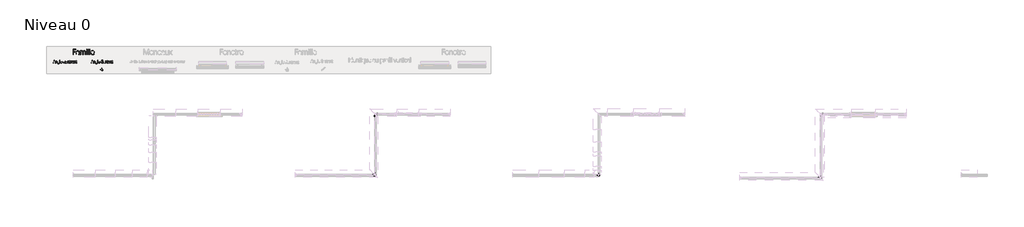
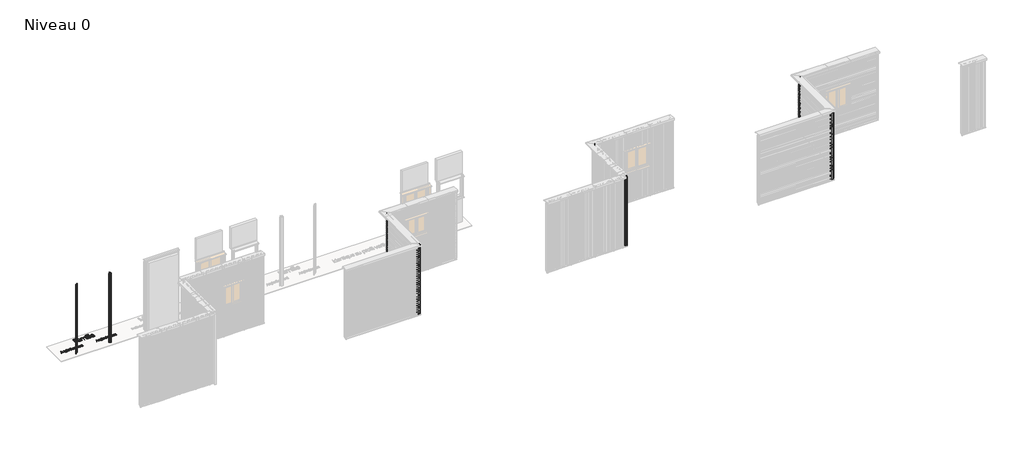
# One storey, part 5 of 11: 11 proxies.
"""IFC4 building model written with IfcOpenShell, lengths in millimetres."""

import ifcopenshell
import ifcopenshell.guid

model = None  # the IFC model being written
_history = None  # IfcOwnerHistory: only IFC2X3 demands one
_inside = {}  # id of a spatial element -> (the spatial element, [elements in it])
_under = {}  # id of a project, library or spatial element -> (it, [spatial elements below it])
_declared = {}  # id of a project -> (the project, [libraries it declares])
_typed = {}  # id of a type object -> (the type object, [elements of that type])
_made_of = {}  # id of a material, layer set ... -> (it, [elements and type objects made of it])


def new_model(schema):
    """Start an empty IFC model of exactly this schema.

    Asked for "IFC4X3", IfcOpenShell would pick the latest addendum, in which some entities
    have other attributes; the version numbers below select the first issue.
    IFC2X3 requires an IfcOwnerHistory on every rooted entity: one is made here for all.
    """
    global model, _history
    if schema == "IFC4X3":
        model = ifcopenshell.file(schema_version=(4, 3, 0, 0))
    else:
        model = ifcopenshell.file(schema=schema)
    _inside.clear()
    _under.clear()
    _declared.clear()
    _typed.clear()
    _made_of.clear()
    _history = None
    if model.schema == "IFC2X3":
        org = make("IfcOrganization", Name="unknown")
        user = make(
            "IfcPersonAndOrganization",
            ThePerson=make("IfcPerson", FamilyName="unknown"),
            TheOrganization=org,
        )
        app = make(
            "IfcApplication",
            ApplicationDeveloper=org,
            Version="unknown",
            ApplicationFullName="unknown",
            ApplicationIdentifier="unknown",
        )
        _history = make(
            "IfcOwnerHistory",
            OwningUser=user,
            OwningApplication=app,
            ChangeAction="ADDED",
            CreationDate=0,
        )
    return model


def make(cls, **values):
    """One entity of the class cls with the attributes given. An attribute that is None is left unset."""
    return model.create_entity(
        cls, **{name: value for name, value in values.items() if value is not None}
    )


def rooted(cls, **values):
    """An entity with a GlobalId (a new one), such as an element, a storey or a relation."""
    return make(cls, GlobalId=ifcopenshell.guid.new(), OwnerHistory=_history, **values)


def si_unit(unit_type, name, prefix=None):
    """IfcSIUnit, for example si_unit("LENGTHUNIT", "METRE", prefix="MILLI")."""
    return make("IfcSIUnit", UnitType=unit_type, Prefix=prefix, Name=name)


def assignment(units):
    """IfcUnitAssignment: the units of a project."""
    return None if units is None else make("IfcUnitAssignment", Units=units)


def point(xyz):
    """IfcCartesianPoint."""
    return None if xyz is None else make("IfcCartesianPoint", Coordinates=xyz)


def direction(xyz):
    """IfcDirection."""
    return None if xyz is None else make("IfcDirection", DirectionRatios=xyz)


def frame(location, z_axis=None, x_axis=None):
    """IfcAxis2Placement3D, a coordinate frame: its origin and axes. An axis left out is left unset."""
    return make(
        "IfcAxis2Placement3D",
        Location=point(location),
        Axis=direction(z_axis),
        RefDirection=direction(x_axis),
    )


def frame_2d(location, x_axis=None):
    """IfcAxis2Placement2D, a coordinate frame in the plane: its origin and x axis."""
    return make(
        "IfcAxis2Placement2D", Location=point(location), RefDirection=direction(x_axis)
    )


def origin():
    """The frame at (0, 0, 0) with its axes left unset."""
    return frame((0.0, 0.0, 0.0))


def origin_with_axes():
    """The frame at (0, 0, 0) with the z axis (0, 0, 1) and the x axis (1, 0, 0) written out."""
    return frame((0.0, 0.0, 0.0), z_axis=(0.0, 0.0, 1.0), x_axis=(1.0, 0.0, 0.0))


def place(relative_to, where):
    """IfcLocalPlacement: puts the frame where relative to a parent placement (None: the world)."""
    return make(
        "IfcLocalPlacement", PlacementRelTo=relative_to, RelativePlacement=where
    )


def context(
    kind, dimensions, precision=None, world=None, true_north=None, identifier=None
):
    """IfcGeometricRepresentationContext, for example the 3D "Model" context."""
    return make(
        "IfcGeometricRepresentationContext",
        ContextIdentifier=identifier,
        ContextType=kind,
        CoordinateSpaceDimension=dimensions,
        Precision=precision,
        WorldCoordinateSystem=world,
        TrueNorth=true_north,
    )


def project(units=None, contexts=None):
    """IfcProject with its units and contexts."""
    return rooted(
        "IfcProject",
        Name="project",
        RepresentationContexts=contexts,
        UnitsInContext=assignment(units),
    )


def spatial(cls, under=None, at=None, **own):
    """A site, building, storey or space (cls), placed at a placement, below another one or the project."""
    s = rooted(cls, ObjectPlacement=at, **own)
    if under is not None:
        _under.setdefault(under.id(), (under, []))[1].append(s)
    return s


def polyline(points):
    """IfcPolyline through the points."""
    return make("IfcPolyline", Points=[point(p) for p in points])


def circle_curve(where, radius):
    """IfcCircle in the frame where."""
    return make("IfcCircle", Position=where, Radius=radius)


def trimmed(basis, trim1, trim2, sense, master):
    """IfcTrimmedCurve: the piece of a basis curve between two trims."""
    return make(
        "IfcTrimmedCurve",
        BasisCurve=basis,
        Trim1=trim1,
        Trim2=trim2,
        SenseAgreement=sense,
        MasterRepresentation=master,
    )


def segment(curve, same_sense, transition):
    """IfcCompositeCurveSegment."""
    return make(
        "IfcCompositeCurveSegment",
        Transition=transition,
        SameSense=same_sense,
        ParentCurve=curve,
    )


def composite_curve(segments, self_intersect=None):
    """IfcCompositeCurve: segments joined end to end."""
    return make("IfcCompositeCurve", Segments=segments, SelfIntersect=self_intersect)


def outline(outer, holes=None, kind="AREA"):
    """IfcArbitraryClosedProfileDef: a profile drawn as a closed curve; with holes, ...WithVoids."""
    if holes is None:
        return make("IfcArbitraryClosedProfileDef", ProfileType=kind, OuterCurve=outer)
    return make(
        "IfcArbitraryProfileDefWithVoids",
        ProfileType=kind,
        OuterCurve=outer,
        InnerCurves=holes,
    )


def extrude(swept, where, along, depth):
    """IfcExtrudedAreaSolid: the profile swept, set in the frame where, extruded along a direction by depth."""
    return make(
        "IfcExtrudedAreaSolid",
        SweptArea=swept,
        Position=where,
        ExtrudedDirection=direction(along),
        Depth=depth,
    )


def shape(context_of_items, identifier, shape_type, items):
    """IfcShapeRepresentation: the items that make up one representation, for example the "Body"."""
    return make(
        "IfcShapeRepresentation",
        ContextOfItems=context_of_items,
        RepresentationIdentifier=identifier,
        RepresentationType=shape_type,
        Items=items,
    )


def source(mapping_origin, context_of_items, identifier, shape_type, items):
    """IfcRepresentationMap: a shape defined once, which mapped items show again and again."""
    return make(
        "IfcRepresentationMap",
        MappingOrigin=mapping_origin,
        MappedRepresentation=shape(context_of_items, identifier, shape_type, items),
    )


def transform(
    local_origin,
    x_axis=None,
    y_axis=None,
    z_axis=None,
    scale=None,
    scale2=None,
    scale3=None,
    uniform=True,
):
    """IfcCartesianTransformationOperator3D, or its non-uniform kind. x_axis, y_axis, z_axis: its Axis1, 2, 3."""
    if uniform:
        return make(
            "IfcCartesianTransformationOperator3D",
            Axis1=direction(x_axis),
            Axis2=direction(y_axis),
            LocalOrigin=point(local_origin),
            Scale=scale,
            Axis3=direction(z_axis),
        )
    return make(
        "IfcCartesianTransformationOperator3DnonUniform",
        Axis1=direction(x_axis),
        Axis2=direction(y_axis),
        LocalOrigin=point(local_origin),
        Scale=scale,
        Axis3=direction(z_axis),
        Scale2=scale2,
        Scale3=scale3,
    )


def mapped(mapping_source, mapping_target):
    """IfcMappedItem: shows the shape of a source again, moved by a transform."""
    return make(
        "IfcMappedItem", MappingSource=mapping_source, MappingTarget=mapping_target
    )


def made_of(thing, what):
    """Note that an element or type object is made of a material, layer set ...; save() writes the relation."""
    if what is not None:
        _made_of.setdefault(what.id(), (what, []))[1].append(thing)
    return thing


def element(
    cls,
    number,
    at=None,
    inside=None,
    cuts=None,
    type_object=None,
    material=None,
    context=None,
    identifier="Body",
    shape_type=None,
    held_by="IfcProductDefinitionShape",
    body=None,
    shapes=None,
    **own,
):
    """One element of the class cls, such as IfcWall. Its Tag is "e" and its number.

    at: its placement. inside: the storey or other place that contains it. cuts: it is an
    opening in that element (IfcRelVoidsElement). A single representation is given by context,
    identifier, shape_type and body (its items); several are given by shapes. held_by: the class
    of the entity that holds the representations. save() writes the other relations.
    """
    e = rooted(cls, Tag="e%d" % number, ObjectPlacement=at, **own)
    if body is not None:
        shapes = [shape(context, identifier, shape_type, body)]
    if shapes is not None:
        e.Representation = make(held_by, Representations=shapes)
    if inside is not None:
        _inside.setdefault(inside.id(), (inside, []))[1].append(e)
    if cuts is not None:
        rooted(
            "IfcRelVoidsElement", RelatingBuildingElement=cuts, RelatedOpeningElement=e
        )
    if type_object is not None:
        _typed.setdefault(type_object.id(), (type_object, []))[1].append(e)
    return made_of(e, material)


def aggregate(whole, parts):
    """IfcRelAggregates: a whole, such as a stair, and the parts it consists of."""
    return rooted("IfcRelAggregates", RelatingObject=whole, RelatedObjects=parts)


def save(model, path):
    """Write the relations noted so far, then the file.

    IfcRelAggregates (storeys below a building ...), IfcRelContainedInSpatialStructure (elements
    in a storey), IfcRelDefinesByType, IfcRelAssociatesMaterial and IfcRelDeclares: one each for
    every whole, place, type object, material and project.
    """
    for whole, parts in _under.values():
        aggregate(whole, parts)
    for where, things in _inside.values():
        rooted(
            "IfcRelContainedInSpatialStructure",
            RelatedElements=things,
            RelatingStructure=where,
        )
    for kind, things in _typed.values():
        rooted("IfcRelDefinesByType", RelatedObjects=things, RelatingType=kind)
    for what, things in _made_of.values():
        rooted("IfcRelAssociatesMaterial", RelatedObjects=things, RelatingMaterial=what)
    for by, libraries in _declared.values():
        rooted("IfcRelDeclares", RelatingContext=by, RelatedDefinitions=libraries)
    model.write(path)


def generic_models_8bef1f62(model_context):
    return source(origin(), model_context, "Body", "SweptSolid", [
        extrude(outline(composite_curve([segment(trimmed(circle_curve(frame_2d((-8.1571833, 78.8678614)), 24.25), [point((-31.2518285, 86.2637968))], [point((-25.3045227, 61.720522))], True, "CARTESIAN"), True, "CONTINUOUS"), segment(polyline([(-25.3045227, 61.720522), (-7.5420004, 43.9579996)]), True, "CONTINUOUS"), segment(trimmed(circle_curve(frame_2d((-25.75, 25.75)), 25.75), [point((-7.5420004, 43.9579996))], [point((-7.5420004, 7.5420004))], False, "CARTESIAN"), True, "CONTINUOUS"), segment(trimmed(circle_curve(frame_2d((-25.75, 25.75)), 25.75), [point((-7.5420004, 7.5420004))], [point((-43.9579996, 7.5420004))], False, "CARTESIAN"), True, "CONTINUOUS"), segment(polyline([(-43.9579996, 7.5420004), (-61.720522, 25.3045227)]), True, "CONTINUOUS"), segment(trimmed(circle_curve(frame_2d((-78.8678614, 8.1571833)), 24.25), [point((-61.720522, 25.3045227))], [point((-86.2637968, 31.2518285))], True, "CARTESIAN"), True, "CONTINUOUS"), segment(polyline([(-86.2637968, 31.2518285), (-96.4932112, 30.7157276), (-96.4932112, 31.7171), (-86.4441266, 32.2437502)]), True, "CONTINUOUS"), segment(trimmed(circle_curve(frame_2d((-78.8678614, 8.1571833)), 25.25), [point((-86.4441266, 32.2437502))], [point((-61.0134152, 26.0116295))], False, "CARTESIAN"), True, "CONTINUOUS"), segment(polyline([(-61.0134152, 26.0116295), (-43.2508928, 8.2491072)]), True, "CONTINUOUS"), segment(trimmed(circle_curve(frame_2d((-25.75, 25.75)), 24.75), [point((-43.2508928, 8.2491072))], [point((-8.2491072, 8.2491072))], True, "CARTESIAN"), True, "CONTINUOUS"), segment(trimmed(circle_curve(frame_2d((-25.75, 25.75)), 24.75), [point((-8.2491072, 8.2491072))], [point((-8.2491072, 43.2508928))], True, "CARTESIAN"), True, "CONTINUOUS"), segment(polyline([(-8.2491072, 43.2508928), (-26.0116295, 61.0134152)]), True, "CONTINUOUS"), segment(trimmed(circle_curve(frame_2d((-8.1571833, 78.8678614)), 25.25), [point((-26.0116295, 61.0134152))], [point((-32.2437502, 86.4441266))], False, "CARTESIAN"), True, "CONTINUOUS"), segment(polyline([(-32.2437502, 86.4441266), (-31.7198428, 96.4408753), (-30.7184705, 96.4408753), (-31.2518285, 86.2637968)]), True, "CONTINUOUS")], self_intersect=False)), origin_with_axes(), (0.0, 0.0, 1.0), 2850.0),
    ])


def generic_models_79ab70e4(model_context):
    return source(origin(), model_context, "Body", "SweptSolid", [
        extrude(outline(composite_curve([segment(trimmed(circle_curve(frame_2d((-25.0, 48.4193766)), 25.0), [point((-1.6392422, 57.3230271))], [point((-7.3223305, 30.7417071))], False, "CARTESIAN"), True, "CONTINUOUS"), segment(polyline([(-7.3223305, 30.7417071), (-30.7417071, 7.3223305)]), True, "CONTINUOUS"), segment(trimmed(circle_curve(frame_2d((-48.4193766, 25.0)), 25.0), [point((-30.7417071, 7.3223305))], [point((-57.3230271, 1.6392422))], False, "CARTESIAN"), True, "CONTINUOUS"), segment(polyline([(-57.3230271, 1.6392422), (-67.2233179, 3.0306373), (-67.0841448, 4.0209054), (-57.0710662, 2.6136589)]), True, "CONTINUOUS"), segment(trimmed(circle_curve(frame_2d((-48.4193766, 25.0)), 24.0), [point((-57.0710662, 2.6136589))], [point((-31.4488138, 8.0294373))], True, "CARTESIAN"), True, "CONTINUOUS"), segment(polyline([(-31.4488138, 8.0294373), (-8.0294373, 31.4488138)]), True, "CONTINUOUS"), segment(trimmed(circle_curve(frame_2d((-25.0, 48.4193766)), 24.0), [point((-8.0294373, 31.4488138))], [point((-2.6136589, 57.0710662))], True, "CARTESIAN"), True, "CONTINUOUS"), segment(polyline([(-2.6136589, 57.0710662), (-4.0209054, 67.0841448), (-3.0306373, 67.2233179), (-1.6392422, 57.3230271)]), True, "CONTINUOUS")], self_intersect=False)), origin_with_axes(), (0.0, 0.0, 1.0), 2850.0),
    ])


def generic_models_60d2bb67(model_context):
    return source(origin(), model_context, "Body", "SweptSolid", [
        extrude(outline(composite_curve([segment(trimmed(circle_curve(frame_2d((-2.75, 66.9017915)), 2.75), [point((-2.75, 69.6517915))], [point((0.0, 66.9017915))], False, "CARTESIAN"), True, "CONTINUOUS"), segment(polyline([(0.0, 66.9017915), (0.0, 2.75)]), True, "CONTINUOUS"), segment(trimmed(circle_curve(frame_2d((-2.75, 2.75)), 2.75), [point((0.0, 2.75))], [point((-2.75, 0.0))], False, "CARTESIAN"), True, "CONTINUOUS"), segment(polyline([(-2.75, 0.0), (-66.4352339, 0.0)]), True, "CONTINUOUS"), segment(trimmed(circle_curve(frame_2d((-66.4352339, 2.75)), 2.75), [point((-66.4352339, 0.0))], [point((-69.1852339, 2.75))], False, "CARTESIAN"), True, "CONTINUOUS"), segment(polyline([(-69.1852339, 2.75), (-69.1852339, 40.4017915)]), True, "CONTINUOUS"), segment(trimmed(circle_curve(frame_2d((-71.1852339, 40.4017915)), 2.0), [point((-69.1852339, 40.4017915))], [point((-71.1852339, 42.4017915))], True, "CARTESIAN"), True, "CONTINUOUS"), segment(polyline([(-71.1852339, 42.4017915), (-110.6852339, 42.4017915), (-110.6852339, 43.4017915), (-71.1852339, 43.4017915)]), True, "CONTINUOUS"), segment(trimmed(circle_curve(frame_2d((-71.1852339, 40.4017915)), 3.0), [point((-71.1852339, 43.4017915))], [point((-68.1852339, 40.4017915))], False, "CARTESIAN"), True, "CONTINUOUS"), segment(polyline([(-68.1852339, 40.4017915), (-68.1852339, 2.75)]), True, "CONTINUOUS"), segment(trimmed(circle_curve(frame_2d((-66.4352339, 2.75)), 1.75), [point((-68.1852339, 2.75))], [point((-66.4352339, 1.0))], True, "CARTESIAN"), True, "CONTINUOUS"), segment(polyline([(-66.4352339, 1.0), (-2.75, 1.0)]), True, "CONTINUOUS"), segment(trimmed(circle_curve(frame_2d((-2.75, 2.75)), 1.75), [point((-2.75, 1.0))], [point((-1.0, 2.75))], True, "CARTESIAN"), True, "CONTINUOUS"), segment(polyline([(-1.0, 2.75), (-1.0, 66.9017915)]), True, "CONTINUOUS"), segment(trimmed(circle_curve(frame_2d((-2.75, 66.9017915)), 1.75), [point((-1.0, 66.9017915))], [point((-2.75, 68.6517915))], True, "CARTESIAN"), True, "CONTINUOUS"), segment(polyline([(-2.75, 68.6517915), (-39.9352339, 68.6517915)]), True, "CONTINUOUS"), segment(trimmed(circle_curve(frame_2d((-39.9352339, 71.6517915)), 3.0), [point((-39.9352339, 68.6517915))], [point((-42.9352339, 71.6517915))], False, "CARTESIAN"), True, "CONTINUOUS"), segment(polyline([(-42.9352339, 71.6517915), (-42.9352339, 111.1517915), (-41.9352339, 111.1517915), (-41.9352339, 71.6517915)]), True, "CONTINUOUS"), segment(trimmed(circle_curve(frame_2d((-39.9352339, 71.6517915)), 2.0), [point((-41.9352339, 71.6517915))], [point((-39.9352339, 69.6517915))], True, "CARTESIAN"), True, "CONTINUOUS"), segment(polyline([(-39.9352339, 69.6517915), (-2.75, 69.6517915)]), True, "CONTINUOUS")], self_intersect=False)), origin_with_axes(), (0.0, 0.0, 1.0), 2850.0),
    ])


def generic_models_bf32fdc3(model_context):
    return source(origin(), model_context, "Body", "SweptSolid", [
        extrude(outline(composite_curve([segment(trimmed(circle_curve(frame_2d((-2.7506849, 79.4601534)), 2.7506849), [point((0.0, 79.4601534))], [point((-2.7506849, 76.7094685))], False, "CARTESIAN"), True, "CONTINUOUS"), segment(polyline([(-2.7506849, 76.7094685), (-44.6919235, 76.7094685)]), True, "CONTINUOUS"), segment(trimmed(circle_curve(frame_2d((-44.6919235, 74.7096397)), 1.9998288), [point((-44.6919235, 76.7094685))], [point((-46.6917522, 74.7096397))], True, "CARTESIAN"), True, "CONTINUOUS"), segment(polyline([(-46.6917522, 74.7096397), (-46.6917522, 49.4404915)]), True, "CONTINUOUS"), segment(trimmed(circle_curve(frame_2d((-49.4417951, 49.4404915)), 2.7500428), [point((-46.6917522, 49.4404915))], [point((-49.4417951, 46.6904487))], False, "CARTESIAN"), True, "CONTINUOUS"), segment(polyline([(-49.4417951, 46.6904487), (-74.6886356, 46.6904487)]), True, "CONTINUOUS"), segment(trimmed(circle_curve(frame_2d((-74.6886356, 44.6904595)), 1.9999892), [point((-74.6886356, 46.6904487))], [point((-76.6886248, 44.6904595))], True, "CARTESIAN"), True, "CONTINUOUS"), segment(polyline([(-76.6886248, 44.6904595), (-76.6886248, 2.750003)]), True, "CONTINUOUS"), segment(trimmed(circle_curve(frame_2d((-79.4386278, 2.750003)), 2.750003), [point((-76.6886248, 2.750003))], [point((-79.4386278, 0.0))], False, "CARTESIAN"), True, "CONTINUOUS"), segment(polyline([(-79.4386278, 0.0), (-118.9386303, 0.0), (-118.9386303, 1.0), (-79.4386278, 1.0)]), True, "CONTINUOUS"), segment(trimmed(circle_curve(frame_2d((-79.4386278, 2.750003)), 1.750003), [point((-79.4386278, 1.0))], [point((-77.6886248, 2.750003))], True, "CARTESIAN"), True, "CONTINUOUS"), segment(polyline([(-77.6886248, 2.750003), (-77.6886248, 44.6904595)]), True, "CONTINUOUS"), segment(trimmed(circle_curve(frame_2d((-74.6886356, 44.6904595)), 2.9999892), [point((-77.6886248, 44.6904595))], [point((-74.6886356, 47.6904487))], False, "CARTESIAN"), True, "CONTINUOUS"), segment(polyline([(-74.6886356, 47.6904487), (-49.4417951, 47.6904487)]), True, "CONTINUOUS"), segment(trimmed(circle_curve(frame_2d((-49.4417951, 49.4404915)), 1.7500428), [point((-49.4417951, 47.6904487))], [point((-47.6917522, 49.4404915))], True, "CARTESIAN"), True, "CONTINUOUS"), segment(polyline([(-47.6917522, 49.4404915), (-47.6917522, 74.7096397)]), True, "CONTINUOUS"), segment(trimmed(circle_curve(frame_2d((-44.6919235, 74.7096397)), 2.9998288), [point((-47.6917522, 74.7096397))], [point((-44.6919235, 77.7094685))], False, "CARTESIAN"), True, "CONTINUOUS"), segment(polyline([(-44.6919235, 77.7094685), (-2.7506849, 77.7094685)]), True, "CONTINUOUS"), segment(trimmed(circle_curve(frame_2d((-2.7506849, 79.4601534)), 1.7506849), [point((-2.7506849, 77.7094685))], [point((-1.0, 79.4601534))], True, "CARTESIAN"), True, "CONTINUOUS"), segment(polyline([(-1.0, 79.4601534), (-1.0, 117.440002), (0.0, 117.440002), (0.0, 79.4601534)]), True, "CONTINUOUS")], self_intersect=False)), origin_with_axes(), (0.0, 0.0, 1.0), 2850.0),
    ])


model = new_model("IFC4")

# Units and contexts
model_context = context("Model", 3, world=origin())
ifc_project = project(units=[si_unit("LENGTHUNIT", "METRE", prefix="MILLI")], contexts=[model_context])

# Site, building, storey
site = spatial("IfcSite", under=ifc_project)
building = spatial("IfcBuilding", under=site)
storey = spatial("IfcBuildingStorey", under=building, Name="Niveau 0", Elevation=0.0)

# Proxies
placement = place(None, origin())
generic_models_shape = generic_models_8bef1f62(model_context)
element("IfcBuildingElementProxy", 1, Name="Angle sortant V : Angle sortant V", ObjectType="Angle sortant V : Angle sortant V", at=placement, inside=storey, context=model_context, shape_type="MappedRepresentation", body=[
    mapped(generic_models_shape, transform((19931.2350792, -19137.4944433, 30.7239521), x_axis=(1.0, 0.0, 0.0), y_axis=(0.0, 1.0, 0.0), z_axis=(0.0, 0.0, 1.0))),
])
element("IfcBuildingElementProxy", 2, Name="Angle sortant V : Angle sortant V", ObjectType="Angle sortant V : Angle sortant V", at=placement, inside=storey, context=model_context, shape_type="MappedRepresentation", body=[
    mapped(generic_models_shape, transform((2035.7263778, -15333.1424816, 0.0), x_axis=(1.0, 0.0, 0.0), y_axis=(0.0, 1.0, 0.0), z_axis=(0.0, 0.0, 1.0))),
])
generic_models_2_shape = generic_models_79ab70e4(model_context)
element("IfcBuildingElementProxy", 3, Name="Angle Rentrant V : Angle Rentrant V", ObjectType="Angle Rentrant V : Angle Rentrant V", at=placement, inside=storey, context=model_context, shape_type="MappedRepresentation", body=[
    mapped(generic_models_2_shape, transform((19912.75425, -16919.9531192, 30.7239521), x_axis=(-1.0, 0.0, 0.0), y_axis=(0.0, -1.0, 0.0), z_axis=(0.0, 0.0, 1.0))),
])
element("IfcBuildingElementProxy", 4, Name="Angle Rentrant V : Angle Rentrant V", ObjectType="Angle Rentrant V : Angle Rentrant V", at=placement, inside=storey, context=model_context, shape_type="MappedRepresentation", body=[
    mapped(generic_models_2_shape, transform((653.3442176, -15281.3041692, 0.0), x_axis=(-1.0, 0.0, 0.0), y_axis=(0.0, -1.0, 0.0), z_axis=(0.0, 0.0, 1.0))),
])
generic_models_3_shape = generic_models_60d2bb67(model_context)
element("IfcBuildingElementProxy", 5, Name="Angle sortant H : Angle sortant H", ObjectType="Angle sortant H : Angle sortant H", at=placement, inside=storey, context=model_context, shape_type="MappedRepresentation", body=[
    mapped(generic_models_3_shape, transform((11864.5725557, -19125.8319197, 30.7239521), x_axis=(1.0, 0.0, 0.0), y_axis=(0.0, 1.0, 0.0), z_axis=(0.0, 0.0, 1.0))),
])
element("IfcBuildingElementProxy", 6, Name="Angle sortant H : Angle sortant H", ObjectType="Angle sortant H : Angle sortant H", at=placement, inside=storey, context=model_context, shape_type="MappedRepresentation", body=[
    mapped(generic_models_3_shape, transform((27910.5476362, -19226.0628642, 30.7239521), x_axis=(1.0, 0.0, 0.0), y_axis=(0.0, 1.0, 0.0), z_axis=(0.0, 0.0, 1.0))),
])
generic_models_4_shape = generic_models_bf32fdc3(model_context)
element("IfcBuildingElementProxy", 7, Name="Angle Rentrant H : Angle Rentrant H", ObjectType="Angle Rentrant H : Angle Rentrant H", at=placement, inside=storey, context=model_context, shape_type="MappedRepresentation", body=[
    mapped(generic_models_4_shape, transform((11819.5725557, -16880.8319197, 30.7239521), x_axis=(-1.0, 0.0, 0.0), y_axis=(0.0, -1.0, 0.0), z_axis=(0.0, 0.0, 1.0))),
])
element("IfcBuildingElementProxy", 8, Name="Angle Rentrant H : Angle Rentrant H", ObjectType="Angle Rentrant H : Angle Rentrant H", at=placement, inside=storey, context=model_context, shape_type="MappedRepresentation", body=[
    mapped(generic_models_4_shape, transform((27869.1060886, -16884.4739822, 30.7239521), x_axis=(-1.0, 0.0, 0.0), y_axis=(0.0, -1.0, 0.0), z_axis=(0.0, 0.0, 1.0))),
])
element("IfcBuildingElementProxy", 9, Name="1mm", ObjectType="1mm", at=placement, inside=storey, context=model_context, shape_type="SweptSolid", body=[
    extrude(outline(polyline([(243.9321599, -15057.3333427), (281.3040098, -14957.3279387), (285.2911339, -14957.3279387), (322.0976453, -15057.3333427), (317.1583722, -15057.3333427), (305.2862638, -15025.0495392), (260.8625601, -15025.0495392), (248.8714331, -15057.3333427), (243.9321599, -15057.3333427)]), holes=[polyline([(262.4693116, -15020.6458499), (303.620003, -15020.6458499), (285.9754911, -14972.592078), (284.5175128, -14968.4115486), (283.2678172, -14964.5880751), (281.6461884, -14968.4561806), (280.2030875, -14972.4730594), (262.4693116, -15020.6458499)])]), origin_with_axes(), (0.0, 0.0, 1.0), 10.0),
    extrude(outline(polyline([(389.8787552, -15057.3333427), (385.6238392, -15057.3333427), (385.6238392, -15012.8501297), (384.2625636, -15002.4917895), (380.1787368, -14994.7444205), (373.6699055, -14989.913008), (365.0336162, -14988.3025372), (355.4972484, -14990.0283073), (347.8949334, -14995.2056177), (342.9184669, -15003.068286), (341.2596448, -15012.8501297), (341.2596448, -15057.3333427), (336.9452194, -15057.3333427), (336.9452194, -14985.9221646), (341.2596448, -14985.9221646), (341.2596448, -14998.1215742), (351.0638044, -14987.7669533), (365.2716534, -14984.1666398), (375.6560289, -14986.0597799), (383.4219945, -14991.7392001), (388.264565, -15000.6990714), (389.8787552, -15012.4335644), (389.8787552, -15057.3333427)])), origin_with_axes(), (0.0, 0.0, 1.0), 10.0),
    extrude(outline(polyline([(465.2026708, -15056.9762868), (463.2946534, -15071.6825263), (457.4367052, -15082.2975004), (447.8594248, -15088.7245064), (434.7487788, -15090.8668417), (418.3390851, -15086.9987363), (406.0950436, -15076.0787769), (409.7251118, -15073.4306124), (420.6301938, -15083.5174413), (434.8380428, -15086.760699), (445.8621434, -15084.9047522), (454.1190608, -15079.3369119), (459.2517393, -15069.9679141), (460.9031228, -15056.7084949), (460.9031228, -15041.9799394), (450.1021821, -15054.5810369), (434.4809869, -15058.9996035), (422.15512, -15056.5150896), (412.4922949, -15049.0615479), (406.2438169, -15037.5093021), (404.1609908, -15022.728676), (406.4781348, -15006.4528783), (413.4295667, -14994.2832233), (423.9887507, -14986.6957857), (437.1291514, -14984.1666398), (451.2477364, -14987.5884254), (460.6948402, -14997.3479531), (460.9031228, -14985.9221646), (465.2026708, -14985.9221646), (465.2026708, -15056.9762868)]), holes=[polyline([(460.9031228, -15026.1504616), (460.9031228, -15010.8268129), (459.1959493, -15002.0789436), (454.0744289, -14994.8188072), (446.4237625, -14989.9316047), (437.1291514, -14988.3025372), (425.5136769, -14990.5415752), (416.4347871, -14997.2586891), (410.5768389, -15008.0224365), (408.6241895, -15022.4013747), (410.4429429, -15036.0959559), (415.8992032, -15046.353874), (424.2193493, -15052.7585641), (434.6297602, -15054.8934608), (445.1852249, -15052.8552667), (453.583477, -15046.7406846), (459.0732113, -15037.5167408), (460.9031228, -15026.1504616)])]), origin_with_axes(), (0.0, 0.0, 1.0), 10.0),
    extrude(outline(polyline([(487.384768, -15057.3333427), (487.384768, -14951.6150444), (491.6991933, -14951.6150444), (491.6991933, -15057.3333427), (487.384768, -15057.3333427)])), origin_with_axes(), (0.0, 0.0, 1.0), 10.0),
    extrude(outline(polyline([(567.8116073, -15019.7680875), (513.27132, -15020.288794), (514.9561775, -15035.5120207), (520.4273152, -15046.3092421), (529.0375692, -15052.7622834), (540.1397758, -15054.9529701), (553.6483903, -15051.6055711), (563.1996354, -15041.5633742), (566.9784769, -15043.5866909), (556.0287629, -15055.1463754), (540.1397758, -15059.0888675), (527.3266764, -15056.6527049), (517.3923401, -15049.5227451), (511.0211241, -15037.4237575), (508.8973854, -15020.0805114), (511.09923, -15005.4375006), (517.704764, -14994.0005541), (527.7172063, -14986.6251184), (540.1397758, -14984.1666398), (551.8184789, -14986.4168358), (560.5514709, -14993.1674237), (565.9965732, -15004.187805), (567.8116073, -15019.7680875)]), holes=[polyline([(563.407918, -15016.2719153), (561.6449545, -15004.1282957), (556.891648, -14995.3692683), (549.5422476, -14990.06922), (539.9910025, -14988.3025372), (529.9376476, -14990.113852), (521.7960294, -14995.5477963), (516.1240478, -15004.3514556), (513.4796026, -15016.2719153), (563.407918, -15016.2719153)])]), origin_with_axes(), (0.0, 0.0, 1.0), 10.0),
    extrude(outline(polyline([(677.7848216, -15057.3333427), (672.6967752, -15057.3333427), (659.5749712, -15027.4299118), (651.1692804, -15015.0073423), (639.431068, -15011.5111701), (624.7917765, -15011.5111701), (624.7917765, -15057.3333427), (620.1798046, -15057.3333427), (620.1798046, -14957.3279387), (645.7688101, -14957.3279387), (657.2875819, -14959.0871828), (666.3144011, -14964.3649152), (672.1500333, -14972.647868), (674.0952441, -14983.4227733), (672.3843513, -14993.070721), (667.2516728, -15001.1267946), (659.5080232, -15007.0033394), (649.9642168, -15010.1127012), (657.5962865, -15015.2453796), (663.6811139, -15025.6743871), (677.7848216, -15057.3333427)]), holes=[polyline([(624.7917765, -14961.5828547), (624.7917765, -15007.256254), (642.7040804, -15007.256254), (653.5756884, -15005.5937125), (662.0892398, -15000.6060881), (667.5901321, -14993.0521244), (669.4237628, -14983.6905653), (667.8095727, -14974.5112534), (662.9670022, -14967.5040316), (655.3200552, -14963.0631489), (645.2927356, -14961.5828547), (624.7917765, -14961.5828547)])]), origin_with_axes(), (0.0, 0.0, 1.0), 10.0),
    extrude(outline(polyline([(748.7199252, -15019.7680875), (694.1796379, -15020.288794), (695.8644954, -15035.5120207), (701.3356331, -15046.3092421), (709.9458871, -15052.7622834), (721.0480937, -15054.9529701), (734.5567082, -15051.6055711), (744.1079533, -15041.5633742), (747.8867948, -15043.5866909), (736.9370808, -15055.1463754), (721.0480937, -15059.0888675), (708.2349943, -15056.6527049), (698.300658, -15049.5227451), (691.9294419, -15037.4237575), (689.8057033, -15020.0805114), (692.0075479, -15005.4375006), (698.6130819, -14994.0005541), (708.6255242, -14986.6251184), (721.0480937, -14984.1666398), (732.7267968, -14986.4168358), (741.4597888, -14993.1674237), (746.9048911, -15004.187805), (748.7199252, -15019.7680875)]), holes=[polyline([(744.3162359, -15016.2719153), (742.5532724, -15004.1282957), (737.7999659, -14995.3692683), (730.4505655, -14990.06922), (720.8993204, -14988.3025372), (710.8459655, -14990.113852), (702.7043473, -14995.5477963), (697.0323657, -15004.3514556), (694.3879205, -15016.2719153), (744.3162359, -15016.2719153)])]), origin_with_axes(), (0.0, 0.0, 1.0), 10.0),
    extrude(outline(polyline([(818.3458239, -15057.3333427), (814.0909078, -15057.3333427), (814.0909078, -15012.8501297), (812.7296322, -15002.4917895), (808.6458055, -14994.7444205), (802.1369742, -14989.913008), (793.5006848, -14988.3025372), (783.9643171, -14990.0283073), (776.3620021, -14995.2056177), (771.3855356, -15003.068286), (769.7267134, -15012.8501297), (769.7267134, -15057.3333427), (765.4122881, -15057.3333427), (765.4122881, -14985.9221646), (769.7267134, -14985.9221646), (769.7267134, -14998.1215742), (779.5308731, -14987.7669533), (793.7387221, -14984.1666398), (804.1230975, -14986.0597799), (811.8890632, -14991.7392001), (816.7316337, -15000.6990714), (818.3458239, -15012.4335644), (818.3458239, -15057.3333427)])), origin_with_axes(), (0.0, 0.0, 1.0), 10.0),
    extrude(outline(polyline([(867.0541983, -15053.8520477), (861.1776534, -15057.5862573), (854.7060154, -15058.7318116), (844.6340638, -15054.8190741), (841.2569102, -15043.1106164), (841.2569102, -14989.9092887), (828.1648608, -14989.9092887), (828.1648608, -14985.9221646), (841.2569102, -14985.9221646), (841.2569102, -14966.7304105), (845.5713355, -14965.986544), (845.5713355, -14985.9221646), (865.0308815, -14985.9221646), (865.0308815, -14989.9092887), (845.5713355, -14989.9092887), (845.5713355, -15042.8130698), (847.9517081, -15051.784099), (855.0035619, -15054.7446875), (859.9130804, -15053.8074158), (864.554807, -15050.698054), (867.0541983, -15053.8520477)])), origin_with_axes(), (0.0, 0.0, 1.0), 10.0),
    extrude(outline(polyline([(911.2696194, -14989.9092887), (907.8180791, -14988.7339797), (904.3665388, -14988.4215558), (896.2323593, -14990.5229785), (889.6826153, -14996.8272466), (885.3644706, -15007.0888841), (883.9250891, -15021.0624151), (883.9250891, -15057.3333427), (879.6701731, -15057.3333427), (879.6701731, -14985.9221646), (883.9250891, -14985.9221646), (883.9250891, -15001.6921331), (891.9439693, -14988.9571396), (904.5748214, -14984.4641864), (908.6809642, -14984.8063649), (912.9358802, -14986.1304472), (911.2696194, -14989.9092887)])), origin_with_axes(), (0.0, 0.0, 1.0), 10.0),
    extrude(outline(polyline([(973.0105338, -15057.3333427), (968.6663538, -15057.3333427), (968.6663538, -15043.5866909), (958.177837, -15054.6851782), (943.0773483, -15058.9996035), (933.8682818, -15057.6048539), (927.0098332, -15053.4206052), (922.7474785, -15047.0568278), (921.3266936, -15039.1234923), (922.8776551, -15031.0265061), (927.5305397, -15024.5883421), (947.0049631, -15017.1050457), (968.7556177, -15014.040316), (968.7556177, -15009.8449092), (967.3869035, -15000.5317014), (963.2807608, -14993.7773942), (956.8388774, -14989.6712514), (948.4629413, -14988.3025372), (936.0106171, -14991.6499362), (927.0395879, -15001.5433598), (923.0822184, -14999.3117605), (933.9129138, -14988.0496226), (948.4629413, -14984.1666398), (958.5423315, -14985.8329006), (966.3454905, -14990.8316831), (971.3442729, -14998.9323886), (973.0105338, -15009.9044186), (973.0105338, -15057.3333427)]), holes=[polyline([(968.6663538, -15029.5127379), (968.6663538, -15018.1464587), (947.5405469, -15021.0029058), (931.0564666, -15026.9538373), (925.7898922, -15039.0044736), (930.5655148, -15050.7129314), (943.4344042, -15055.0422341), (953.0042459, -15053.2011646), (961.1830574, -15047.6779563), (966.7955297, -15039.4545128), (968.6663538, -15029.5127379)])]), origin_with_axes(), (0.0, 0.0, 1.0), 10.0),
    extrude(outline(polyline([(1046.8615938, -15057.3333427), (1042.6066778, -15057.3333427), (1042.6066778, -15012.8501297), (1041.2454022, -15002.4917895), (1037.1615754, -14994.7444205), (1030.6527441, -14989.913008), (1022.0164547, -14988.3025372), (1012.480087, -14990.0283073), (1004.877772, -14995.2056177), (999.9013055, -15003.068286), (998.2424834, -15012.8501297), (998.2424834, -15057.3333427), (993.928058, -15057.3333427), (993.928058, -14985.9221646), (998.2424834, -14985.9221646), (998.2424834, -14998.1215742), (1008.046643, -14987.7669533), (1022.254492, -14984.1666398), (1032.6388675, -14986.0597799), (1040.4048331, -14991.7392001), (1045.2474036, -15000.6990714), (1046.8615938, -15012.4335644), (1046.8615938, -15057.3333427)])), origin_with_axes(), (0.0, 0.0, 1.0), 10.0),
    extrude(outline(polyline([(1095.5699682, -15053.8520477), (1089.6934233, -15057.5862573), (1083.2217853, -15058.7318116), (1073.1498337, -15054.8190741), (1069.7726801, -15043.1106164), (1069.7726801, -14989.9092887), (1056.6806308, -14989.9092887), (1056.6806308, -14985.9221646), (1069.7726801, -14985.9221646), (1069.7726801, -14966.7304105), (1074.0871054, -14965.986544), (1074.0871054, -14985.9221646), (1093.5466515, -14985.9221646), (1093.5466515, -14989.9092887), (1074.0871054, -14989.9092887), (1074.0871054, -15042.8130698), (1076.4674781, -15051.784099), (1083.5193319, -15054.7446875), (1088.4288504, -15053.8074158), (1093.070577, -15050.698054), (1095.5699682, -15053.8520477)])), origin_with_axes(), (0.0, 0.0, 1.0), 10.0),
])
element("IfcBuildingElementProxy", 10, Name="1mm", ObjectType="1mm", at=placement, inside=storey, context=model_context, shape_type="SweptSolid", body=[
    extrude(outline(polyline([(1611.3168728, -15057.3333427), (1648.6887227, -14957.3279387), (1652.6758468, -14957.3279387), (1689.4823582, -15057.3333427), (1684.543085, -15057.3333427), (1672.6709767, -15025.0495392), (1628.247273, -15025.0495392), (1616.256146, -15057.3333427), (1611.3168728, -15057.3333427)]), holes=[polyline([(1629.8540245, -15020.6458499), (1671.0047158, -15020.6458499), (1653.3602039, -14972.592078), (1651.9022257, -14968.4115486), (1650.6525301, -14964.5880751), (1649.0309012, -14968.4561806), (1647.5878004, -14972.4730594), (1629.8540245, -15020.6458499)])]), origin_with_axes(), (0.0, 0.0, 1.0), 10.0),
    extrude(outline(polyline([(1757.2634681, -15057.3333427), (1753.008552, -15057.3333427), (1753.008552, -15012.8501297), (1751.6472765, -15002.4917895), (1747.5634497, -14994.7444205), (1741.0546184, -14989.913008), (1732.418329, -14988.3025372), (1722.8819613, -14990.0283073), (1715.2796463, -14995.2056177), (1710.3031798, -15003.068286), (1708.6443576, -15012.8501297), (1708.6443576, -15057.3333427), (1704.3299323, -15057.3333427), (1704.3299323, -14985.9221646), (1708.6443576, -14985.9221646), (1708.6443576, -14998.1215742), (1718.4485173, -14987.7669533), (1732.6563663, -14984.1666398), (1743.0407418, -14986.0597799), (1750.8067074, -14991.7392001), (1755.6492779, -15000.6990714), (1757.2634681, -15012.4335644), (1757.2634681, -15057.3333427)])), origin_with_axes(), (0.0, 0.0, 1.0), 10.0),
    extrude(outline(polyline([(1832.5873836, -15056.9762868), (1830.6793662, -15071.6825263), (1824.821418, -15082.2975004), (1815.2441376, -15088.7245064), (1802.1334916, -15090.8668417), (1785.723798, -15086.9987363), (1773.4797564, -15076.0787769), (1777.1098247, -15073.4306124), (1788.0149066, -15083.5174413), (1802.2227556, -15086.760699), (1813.2468562, -15084.9047522), (1821.5037737, -15079.3369119), (1826.6364521, -15069.9679141), (1828.2878356, -15056.7084949), (1828.2878356, -15041.9799394), (1817.4868949, -15054.5810369), (1801.8656997, -15058.9996035), (1789.5398328, -15056.5150896), (1779.8770078, -15049.0615479), (1773.6285297, -15037.5093021), (1771.5457037, -15022.728676), (1773.8628476, -15006.4528783), (1780.8142795, -14994.2832233), (1791.3734636, -14986.6957857), (1804.5138642, -14984.1666398), (1818.6324493, -14987.5884254), (1828.079553, -14997.3479531), (1828.2878356, -14985.9221646), (1832.5873836, -14985.9221646), (1832.5873836, -15056.9762868)]), holes=[polyline([(1828.2878356, -15026.1504616), (1828.2878356, -15010.8268129), (1826.5806622, -15002.0789436), (1821.4591417, -14994.8188072), (1813.8084754, -14989.9316047), (1804.5138642, -14988.3025372), (1792.8983898, -14990.5415752), (1783.8194999, -14997.2586891), (1777.9615517, -15008.0224365), (1776.0089023, -15022.4013747), (1777.8276558, -15036.0959559), (1783.2839161, -15046.353874), (1791.6040622, -15052.7585641), (1802.014473, -15054.8934608), (1812.5699378, -15052.8552667), (1820.9681899, -15046.7406846), (1826.4579242, -15037.5167408), (1828.2878356, -15026.1504616)])]), origin_with_axes(), (0.0, 0.0, 1.0), 10.0),
    extrude(outline(polyline([(1854.7694808, -15057.3333427), (1854.7694808, -14951.6150444), (1859.0839062, -14951.6150444), (1859.0839062, -15057.3333427), (1854.7694808, -15057.3333427)])), origin_with_axes(), (0.0, 0.0, 1.0), 10.0),
    extrude(outline(polyline([(1935.1963202, -15019.7680875), (1880.6560329, -15020.288794), (1882.3408904, -15035.5120207), (1887.812028, -15046.3092421), (1896.4222821, -15052.7622834), (1907.5244887, -15054.9529701), (1921.0331032, -15051.6055711), (1930.5843483, -15041.5633742), (1934.3631898, -15043.5866909), (1923.4134758, -15055.1463754), (1907.5244887, -15059.0888675), (1894.7113893, -15056.6527049), (1884.777053, -15049.5227451), (1878.4058369, -15037.4237575), (1876.2820982, -15020.0805114), (1878.4839429, -15005.4375006), (1885.0894769, -14994.0005541), (1895.1019191, -14986.6251184), (1907.5244887, -14984.1666398), (1919.2031918, -14986.4168358), (1927.9361837, -14993.1674237), (1933.3812861, -15004.187805), (1935.1963202, -15019.7680875)]), holes=[polyline([(1930.7926309, -15016.2719153), (1929.0296674, -15004.1282957), (1924.2763609, -14995.3692683), (1916.9269605, -14990.06922), (1907.3757154, -14988.3025372), (1897.3223605, -14990.113852), (1889.1807423, -14995.5477963), (1883.5087607, -15004.3514556), (1880.8643155, -15016.2719153), (1930.7926309, -15016.2719153)])]), origin_with_axes(), (0.0, 0.0, 1.0), 10.0),
    extrude(outline(polyline([(1984.4105238, -15041.9204301), (1988.5464212, -15039.6293214), (1998.3357035, -15051.0253553), (2012.3799019, -15054.6851782), (2021.685671, -15053.1676906), (2029.2507927, -15048.615228), (2034.2718911, -15041.5038649), (2035.9455906, -15032.3096757), (2031.0063175, -15017.2389416), (2014.3437093, -15007.6728192), (1994.8841632, -14996.9313879), (1990.3317006, -14989.8051474), (1988.8142131, -14980.9828914), (1990.6441245, -14971.0113618), (1996.1338588, -14962.8771823), (2004.5693043, -14957.465554), (2015.236349, -14955.6616779), (2030.6343843, -14959.8422072), (2040.34928, -14970.6580253), (2036.2431372, -14972.8896246), (2027.9713424, -14963.4573981), (2015.1768397, -14959.9761032), (1999.808559, -14965.5253468), (1995.0217785, -14972.0602135), (1993.426185, -14980.5663262), (1998.6183727, -14994.0154314), (2015.6529142, -15003.2988846), (2034.874423, -15014.5163905), (2039.1814096, -15022.2079695), (2040.6170719, -15031.8931105), (2038.6235098, -15042.7758765), (2032.6428236, -15051.4419205), (2023.5899691, -15057.1101828), (2012.3799019, -15058.9996035), (1995.7916803, -15054.6107915), (1984.4105238, -15041.9204301)])), origin_with_axes(), (0.0, 0.0, 1.0), 10.0),
    extrude(outline(polyline([(2089.0278997, -15058.9996035), (2075.3444766, -15056.418387), (2064.5844485, -15048.6747373), (2057.6107007, -15036.7877516), (2055.286118, -15021.7765269), (2057.6888066, -15006.6611609), (2064.8968724, -14994.6402792), (2075.8019544, -14986.7850496), (2089.2956916, -14984.1666398), (2102.9084474, -14986.7924883), (2113.5754922, -14994.6700339), (2120.4711341, -15006.6611609), (2122.7696813, -15021.6277536), (2120.4413794, -15036.6203817), (2113.4564735, -15048.570596), (2102.6927262, -15056.3923516), (2089.0278997, -15058.9996035)]), holes=[polyline([(2089.176673, -15054.8934608), (2101.0934133, -15052.5763168), (2110.3619892, -15045.6248849), (2116.3203593, -15034.9764369), (2118.3064827, -15021.5682443), (2116.327798, -15008.1674904), (2110.3917438, -14997.5413583), (2101.1603613, -14990.6122425), (2089.2956916, -14988.3025372), (2077.3640739, -14990.6531551), (2067.9318475, -14997.705009), (2061.7949494, -15008.4390017), (2059.7493167, -15021.8360362), (2061.7614754, -15035.1735615), (2067.7979515, -15045.7290262), (2077.1669493, -15052.6023521), (2089.176673, -15054.8934608)])]), origin_with_axes(), (0.0, 0.0, 1.0), 10.0),
    extrude(outline(polyline([(2170.1093415, -14989.9092887), (2166.6578012, -14988.7339797), (2163.206261, -14988.4215558), (2155.0720814, -14990.5229785), (2148.5223375, -14996.8272466), (2144.2041928, -15007.0888841), (2142.7648112, -15021.0624151), (2142.7648112, -15057.3333427), (2138.5098952, -15057.3333427), (2138.5098952, -14985.9221646), (2142.7648112, -14985.9221646), (2142.7648112, -15001.6921331), (2150.7836914, -14988.9571396), (2163.4145436, -14984.4641864), (2167.5206863, -14984.8063649), (2171.7756023, -14986.1304472), (2170.1093415, -14989.9092887)])), origin_with_axes(), (0.0, 0.0, 1.0), 10.0),
    extrude(outline(polyline([(2213.4916322, -15053.8520477), (2207.6150873, -15057.5862573), (2201.1434493, -15058.7318116), (2191.0714977, -15054.8190741), (2187.6943441, -15043.1106164), (2187.6943441, -14989.9092887), (2174.6022948, -14989.9092887), (2174.6022948, -14985.9221646), (2187.6943441, -14985.9221646), (2187.6943441, -14966.7304105), (2192.0087695, -14965.986544), (2192.0087695, -14985.9221646), (2211.4683155, -14985.9221646), (2211.4683155, -14989.9092887), (2192.0087695, -14989.9092887), (2192.0087695, -15042.8130698), (2194.3891421, -15051.784099), (2201.4409959, -15054.7446875), (2206.3505144, -15053.8074158), (2210.992241, -15050.698054), (2213.4916322, -15053.8520477)])), origin_with_axes(), (0.0, 0.0, 1.0), 10.0),
    extrude(outline(polyline([(2273.7448137, -15057.3333427), (2269.4006337, -15057.3333427), (2269.4006337, -15043.5866909), (2258.9121169, -15054.6851782), (2243.8116282, -15058.9996035), (2234.6025617, -15057.6048539), (2227.7441132, -15053.4206052), (2223.4817585, -15047.0568278), (2222.0609736, -15039.1234923), (2223.6119351, -15031.0265061), (2228.2648197, -15024.5883421), (2247.739243, -15017.1050457), (2269.4898977, -15014.040316), (2269.4898977, -15009.8449092), (2268.1211835, -15000.5317014), (2264.0150407, -14993.7773942), (2257.5731574, -14989.6712514), (2249.1972213, -14988.3025372), (2236.7448971, -14991.6499362), (2227.7738678, -15001.5433598), (2223.8164984, -14999.3117605), (2234.6471937, -14988.0496226), (2249.1972213, -14984.1666398), (2259.2766115, -14985.8329006), (2267.0797704, -14990.8316831), (2272.0785529, -14998.9323886), (2273.7448137, -15009.9044186), (2273.7448137, -15057.3333427)]), holes=[polyline([(2269.4006337, -15029.5127379), (2269.4006337, -15018.1464587), (2248.2748269, -15021.0029058), (2231.7907466, -15026.9538373), (2226.5241722, -15039.0044736), (2231.2997947, -15050.7129314), (2244.1686841, -15055.0422341), (2253.7385259, -15053.2011646), (2261.9173374, -15047.6779563), (2267.5298096, -15039.4545128), (2269.4006337, -15029.5127379)])]), origin_with_axes(), (0.0, 0.0, 1.0), 10.0),
    extrude(outline(polyline([(2347.5958738, -15057.3333427), (2343.3409577, -15057.3333427), (2343.3409577, -15012.8501297), (2341.9796821, -15002.4917895), (2337.8958554, -14994.7444205), (2331.3870241, -14989.913008), (2322.7507347, -14988.3025372), (2313.214367, -14990.0283073), (2305.612052, -14995.2056177), (2300.6355855, -15003.068286), (2298.9767633, -15012.8501297), (2298.9767633, -15057.3333427), (2294.662338, -15057.3333427), (2294.662338, -14985.9221646), (2298.9767633, -14985.9221646), (2298.9767633, -14998.1215742), (2308.780923, -14987.7669533), (2322.988772, -14984.1666398), (2333.3731475, -14986.0597799), (2341.1391131, -14991.7392001), (2345.9816836, -15000.6990714), (2347.5958738, -15012.4335644), (2347.5958738, -15057.3333427)])), origin_with_axes(), (0.0, 0.0, 1.0), 10.0),
    extrude(outline(polyline([(2396.3042482, -15053.8520477), (2390.4277033, -15057.5862573), (2383.9560653, -15058.7318116), (2373.8841137, -15054.8190741), (2370.5069601, -15043.1106164), (2370.5069601, -14989.9092887), (2357.4149107, -14989.9092887), (2357.4149107, -14985.9221646), (2370.5069601, -14985.9221646), (2370.5069601, -14966.7304105), (2374.8213854, -14965.986544), (2374.8213854, -14985.9221646), (2394.2809314, -14985.9221646), (2394.2809314, -14989.9092887), (2374.8213854, -14989.9092887), (2374.8213854, -15042.8130698), (2377.201758, -15051.784099), (2384.2536119, -15054.7446875), (2389.1631303, -15053.8074158), (2393.8048569, -15050.698054), (2396.3042482, -15053.8520477)])), origin_with_axes(), (0.0, 0.0, 1.0), 10.0),
])
element("IfcBuildingElementProxy", 11, Name="2mm", ObjectType="2mm", at=placement, inside=storey, context=model_context, shape_type="SweptSolid", body=[
    extrude(outline(polyline([(1053.9989785, -14569.4499627), (973.5423845, -14569.4499627), (973.5423845, -14656.6311093), (1048.4051028, -14656.6311093), (1048.4051028, -14665.438488), (973.5423845, -14665.438488), (973.5423845, -14760.83192), (964.3184406, -14760.83192), (964.3184406, -14560.821112), (1053.9989785, -14560.821112), (1053.9989785, -14569.4499627)])), origin_with_axes(), (0.0, 0.0, 1.0), 10.0),
    extrude(outline(polyline([(1182.4795897, -14760.83192), (1173.7912297, -14760.83192), (1173.7912297, -14733.3386165), (1164.7532525, -14745.671922), (1152.8141962, -14755.535591), (1138.4650126, -14762.007229), (1122.6132188, -14764.1644417), (1104.1950857, -14761.3749425), (1090.4781886, -14753.0064451), (1081.9534792, -14740.2788903), (1079.1119094, -14724.4122192), (1082.2138325, -14708.2182468), (1091.5196016, -14695.3419188), (1107.4606594, -14685.9915177), (1130.4684484, -14680.375326), (1173.9697577, -14674.2458666), (1173.9697577, -14665.8550532), (1171.2323292, -14647.2286375), (1163.0200437, -14633.720023), (1150.136277, -14625.5077375), (1133.3844048, -14622.770309), (1120.1063889, -14624.4440085), (1108.4797564, -14629.465107), (1098.5937715, -14637.7592178), (1090.5376979, -14649.2519543), (1082.622959, -14644.7887556), (1092.352732, -14631.7785316), (1104.2843497, -14622.2644799), (1118.0756335, -14616.4400056), (1133.3844048, -14614.4985142), (1153.5431853, -14617.8310359), (1169.1495032, -14627.8286008), (1179.1470681, -14644.0300119), (1182.4795897, -14665.9740718), (1182.4795897, -14760.83192)]), holes=[polyline([(1173.7912297, -14705.1907104), (1173.7912297, -14682.4581521), (1131.539616, -14688.1710463), (1112.08007, -14692.6639996), (1098.5714555, -14700.0729093), (1090.6715939, -14710.5316715), (1088.0383067, -14724.174182), (1090.426118, -14737.4075659), (1097.5895518, -14747.5910974), (1108.799619, -14754.0850514), (1123.3273305, -14756.2497028), (1142.467014, -14752.5675639), (1158.824637, -14741.5211473), (1170.0495816, -14725.0742603), (1173.7912297, -14705.1907104)])]), origin_with_axes(), (0.0, 0.0, 1.0), 10.0),
    extrude(outline(polyline([(1411.054869, -14760.83192), (1402.5450369, -14760.83192), (1402.5450369, -14671.865494), (1400.0679617, -14650.033014), (1392.636736, -14634.761436), (1380.8166983, -14625.7680908), (1365.1731871, -14622.770309), (1348.2948576, -14626.2887973), (1334.4366258, -14636.8442621), (1325.1754887, -14652.8448292), (1322.0884429, -14672.6986244), (1322.0884429, -14760.83192), (1313.4595923, -14760.83192), (1313.4595923, -14671.1513822), (1311.1759223, -14650.7099325), (1304.3249124, -14635.4457932), (1292.9660719, -14625.9391801), (1277.1589101, -14622.770309), (1259.4325728, -14626.1474627), (1245.2916718, -14636.2789236), (1236.0305347, -14651.8852414), (1232.9434889, -14671.686966), (1232.9434889, -14760.83192), (1224.3146383, -14760.83192), (1224.3146383, -14618.0095638), (1232.9434889, -14618.0095638), (1232.9434889, -14641.277706), (1241.5574623, -14629.6733896), (1251.8674511, -14621.2825762), (1264.0519834, -14616.1945297), (1277.8730218, -14614.4985142), (1293.0255812, -14616.8342549), (1305.2770614, -14623.8414767), (1314.151388, -14634.7316814), (1319.1724865, -14648.7163704), (1326.6260282, -14634.3225548), (1337.5608649, -14623.5141755), (1350.8314421, -14616.7524296), (1365.2922057, -14614.4985142), (1384.8856477, -14618.1137051), (1399.2720246, -14628.9592778), (1408.1091579, -14646.7376857), (1411.054869, -14671.1513822), (1411.054869, -14760.83192)])), origin_with_axes(), (0.0, 0.0, 1.0), 10.0),
    extrude(outline(polyline([(1456.3414578, -14583.1371052), (1449.7656785, -14580.637714), (1447.1175139, -14574.0916893), (1449.7656785, -14567.51591), (1456.3414578, -14564.9867641), (1463.0660104, -14567.51591), (1465.5058923, -14574.0916893), (1463.0660104, -14580.637714), (1456.3414578, -14583.1371052)])), origin_with_axes(), (0.0, 0.0, 1.0), 10.0),
    extrude(outline(polyline([(1460.8046564, -14760.83192), (1452.1162964, -14760.83192), (1452.1162964, -14618.0095638), (1460.8046564, -14618.0095638), (1460.8046564, -14760.83192)])), origin_with_axes(), (0.0, 0.0, 1.0), 10.0),
    extrude(outline(polyline([(1509.9593507, -14760.83192), (1509.9593507, -14549.3953235), (1518.5882014, -14549.3953235), (1518.5882014, -14760.83192), (1509.9593507, -14760.83192)])), origin_with_axes(), (0.0, 0.0, 1.0), 10.0),
    extrude(outline(polyline([(1563.279697, -14760.83192), (1563.279697, -14549.3953235), (1571.9085477, -14549.3953235), (1571.9085477, -14760.83192), (1563.279697, -14760.83192)])), origin_with_axes(), (0.0, 0.0, 1.0), 10.0),
    extrude(outline(polyline([(1724.1333757, -14686.7428228), (1615.0528011, -14686.7428228), (1618.4225161, -14717.1892761), (1629.3647914, -14738.7837188), (1646.5852995, -14751.6898015), (1668.7897127, -14756.0711748), (1683.1314576, -14754.3974754), (1695.8069417, -14749.3763769), (1706.5037411, -14741.0078795), (1714.9094319, -14729.291983), (1722.4671149, -14733.3386165), (1712.8861151, -14746.735651), (1700.5676869, -14756.4579854), (1685.7796221, -14762.3717236), (1668.7897127, -14764.3429696), (1643.1635138, -14759.4706445), (1623.2948413, -14745.2107248), (1610.5524092, -14721.0127496), (1606.3049318, -14686.3262576), (1610.7086211, -14657.0402359), (1623.9196891, -14634.1663429), (1643.9445736, -14619.4154714), (1668.7897127, -14614.4985142), (1692.1471188, -14618.9989062), (1709.6131028, -14632.5000821), (1720.5033075, -14654.5408446), (1724.1333757, -14684.6599967), (1724.1333757, -14686.7428228)]), holes=[polyline([(1715.3259971, -14678.7090652), (1711.8000701, -14654.421826), (1702.2934571, -14636.9037714), (1687.5946562, -14626.3036746), (1668.4921661, -14622.770309), (1648.3854562, -14626.3929386), (1632.1022199, -14637.2608273), (1620.7582567, -14654.8681459), (1615.4693663, -14678.7090652), (1715.3259971, -14678.7090652)])]), origin_with_axes(), (0.0, 0.0, 1.0), 10.0),
])

save(model, "model.ifc")
